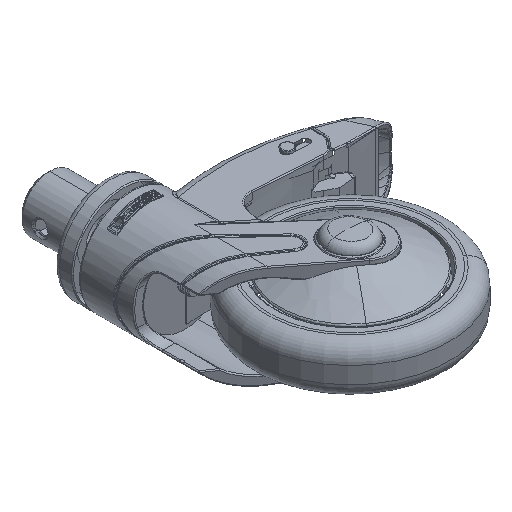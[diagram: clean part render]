
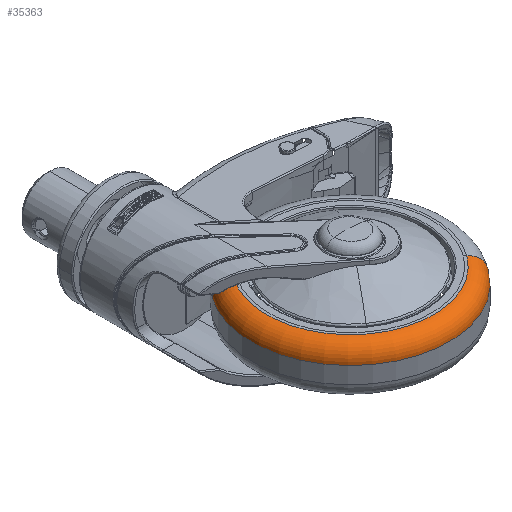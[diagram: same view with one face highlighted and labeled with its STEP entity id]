
A CAD part, isometric view. The second image highlights one B-rep face of the part: STEP entity #35363.
In plain terms, the highlighted toroidal (fillet/blend) face has major radius 42 mm and minor radius 8 mm.
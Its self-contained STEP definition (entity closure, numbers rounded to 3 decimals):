
#35129=CARTESIAN_POINT('',(36.,-69.8,4.219));
#35130=DIRECTION('',(0.,0.,-1.));
#35131=DIRECTION('',(0.811,-0.585,0.));
#35132=AXIS2_PLACEMENT_3D('',#35129,#35130,#35131);
#35147=CARTESIAN_POINT('',(70.06,-94.375,
4.219));
#35148=DIRECTION('',(0.585,0.811,0.));
#35149=DIRECTION('',(0.023,-0.016,1.));
#35150=AXIS2_PLACEMENT_3D('',#35147,#35148,#35149);
#35157=CARTESIAN_POINT('',(1.94,-45.225,
4.219));
#35158=DIRECTION('',(-0.585,-0.811,0.));
#35159=DIRECTION('',(-0.023,0.016,1.));
#35160=AXIS2_PLACEMENT_3D('',#35157,#35158,#35159);
#35162=CARTESIAN_POINT('',(36.,-69.8,12.216));
#35163=DIRECTION('',(0.,0.,-1.));
#35164=DIRECTION('',(0.811,-0.585,0.));
#35165=AXIS2_PLACEMENT_3D('',#35162,#35163,#35164);
#35253=CARTESIAN_POINT('',(76.547,-99.056,
4.219));
#35255=VERTEX_POINT('',#35253);
#35259=CARTESIAN_POINT('',(70.24,-94.505,
12.216));
#35260=VERTEX_POINT('',#35259);
#35261=CARTESIAN_POINT('',(-4.547,-40.544,
4.219));
#35263=VERTEX_POINT('',#35261);
#35267=CARTESIAN_POINT('',(1.76,-45.095,
12.216));
#35268=VERTEX_POINT('',#35267);
#35351=CARTESIAN_POINT('',(36.,-69.8,4.219));
#35352=DIRECTION('',(0.,0.,-1.));
#35353=DIRECTION('',(0.811,-0.585,0.));
#35354=AXIS2_PLACEMENT_3D('',#35351,#35352,#35353);
#35355=TOROIDAL_SURFACE('',#35354,42.,8.);
#35356=ORIENTED_EDGE('',*,*,#35334,.T.);
#35357=ORIENTED_EDGE('',*,*,#35296,.T.);
#35358=ORIENTED_EDGE('',*,*,#35338,.F.);
#35360=ORIENTED_EDGE('',*,*,#35359,.F.);
#35361=EDGE_LOOP('',(#35356,#35357,#35358,#35360));
#35362=FACE_OUTER_BOUND('',#35361,.F.);
#35133=CIRCLE('',#35132,50.);
#35151=CIRCLE('',#35150,8.);
#35161=CIRCLE('',#35160,8.);
#35166=CIRCLE('',#35165,42.222);
#35296=EDGE_CURVE('',#35255,#35263,#35133,.T.);
#35334=EDGE_CURVE('',#35260,#35255,#35151,.T.);
#35338=EDGE_CURVE('',#35268,#35263,#35161,.T.);
#35359=EDGE_CURVE('',#35260,#35268,#35166,.T.);
#35363=ADVANCED_FACE('',(#35362),#35355,.T.);
